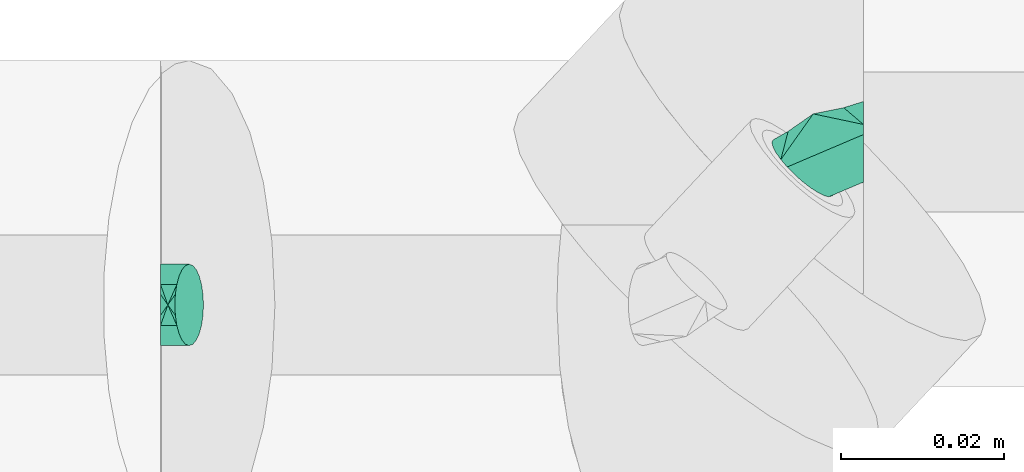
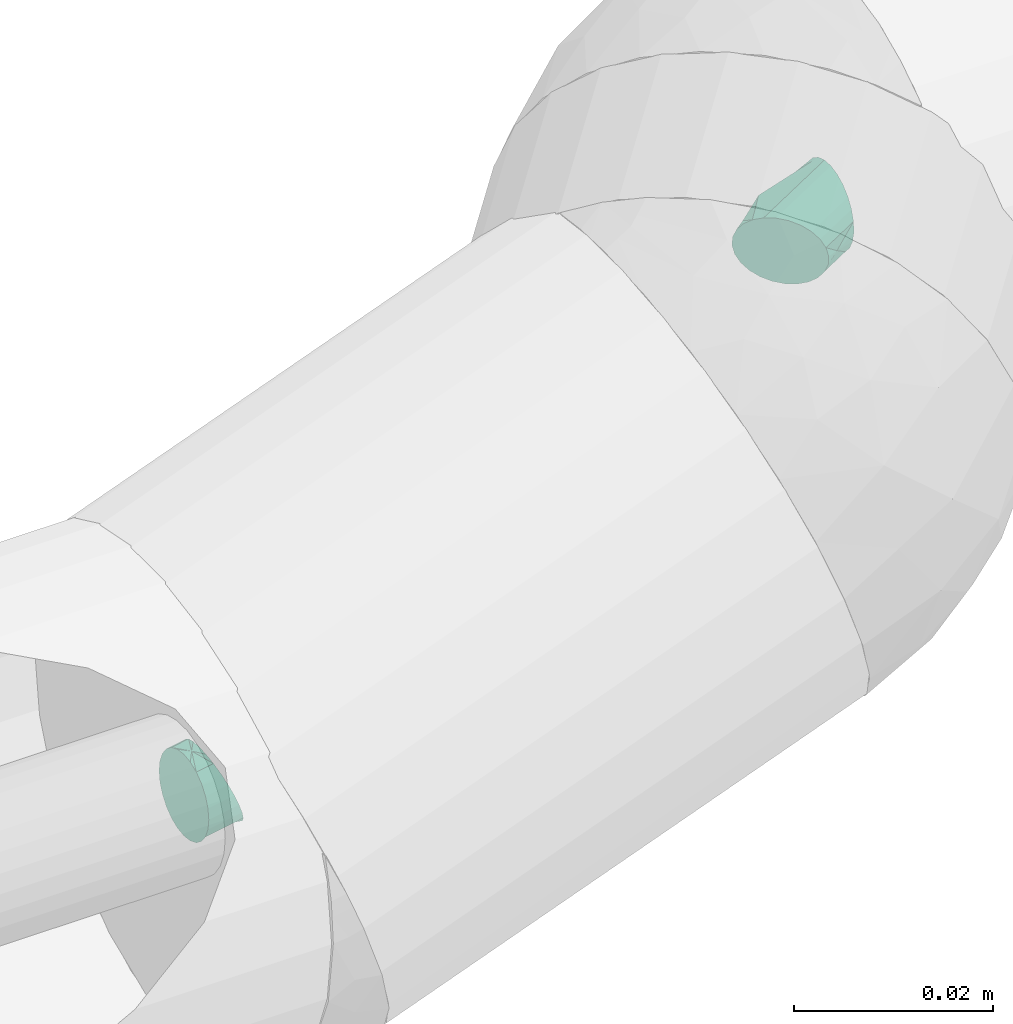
# One storey, part 153 of 156: 2 flow fittings.
"""IFC2X3 building model written with IfcOpenShell, lengths in millimetres."""

from ifc_helpers import new_model, entity, si_unit, converted_unit, derived_unit, direction, frame, origin_with_axes, place, context, subcontext, project, spatial, open_shell, surface_model, source, transform, mapped, type_object, element, save


model = new_model("IFC2X3")

# Units and contexts
model_context = context("Model", 3, precision=0.01, world=frame((0.0, 4.29681676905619e-09, 0.0)), true_north=direction((4.01073788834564e-13, 1.0)))
plan_context = context("Plan", 3, precision=0.01, world=frame((0.0, 4.29681676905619e-09, 0.0)), true_north=direction((4.01073788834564e-13, 1.0)))
body_context = subcontext(model_context, "Body", "Model", "MODEL_VIEW")
ifc_project = project(units=[converted_unit("PLANEANGLEUNIT", "DEGREE", entity("IfcPositiveLengthMeasure", 0.0174532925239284), si_unit("PLANEANGLEUNIT", "RADIAN"), dimensions=[0, 0, 0, 0, 0, 0, 0]), si_unit("AREAUNIT", "SQUARE_METRE"), si_unit("LENGTHUNIT", "METRE", prefix="MILLI"), si_unit("MASSUNIT", "GRAM", prefix="KILO"), si_unit("POWERUNIT", "WATT"), si_unit("PRESSUREUNIT", "PASCAL", prefix="KILO"), si_unit("FORCEUNIT", "NEWTON", prefix="KILO"), si_unit("ELECTRICVOLTAGEUNIT", "VOLT"), si_unit("ELECTRICCURRENTUNIT", "AMPERE"), si_unit("THERMODYNAMICTEMPERATUREUNIT", "DEGREE_CELSIUS"), si_unit("TIMEUNIT", "SECOND"), si_unit("VOLUMEUNIT", "CUBIC_METRE"), derived_unit("LINEARVELOCITYUNIT", [(si_unit("LENGTHUNIT", "METRE"), 1), (si_unit("TIMEUNIT", "SECOND"), -1)]), derived_unit("VOLUMETRICFLOWRATEUNIT", [(si_unit("VOLUMEUNIT", "CUBIC_METRE"), 1), (si_unit("TIMEUNIT", "SECOND"), -1)]), derived_unit("THERMALTRANSMITTANCEUNIT", [(si_unit("POWERUNIT", "WATT"), 1), (si_unit("THERMODYNAMICTEMPERATUREUNIT", "KELVIN"), -1), (si_unit("AREAUNIT", "SQUARE_METRE"), -1)]), derived_unit("SOUNDPRESSUREUNIT", [(si_unit("PRESSUREUNIT", "PASCAL"), 1)])], contexts=[model_context, plan_context])

# Site, building, storey
site_placement = place(None, frame((0.0, -4.29681676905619e-09, 0.0), z_axis=(0.0, 0.0, 1.0), x_axis=(1.0, 0.0, 0.0)))
site = spatial("IfcSite", under=ifc_project, at=site_placement, CompositionType="ELEMENT")
building_placement = place(site_placement, frame((0.0, 4.29681676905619e-09, 0.0), z_axis=(0.0, 0.0, 1.0), x_axis=(1.0, 0.0, 0.0)))
building = spatial("IfcBuilding", under=site, at=building_placement, Name="mc-building", CompositionType="ELEMENT")
storey_placement = place(building_placement, frame((0.0, 0.0, 205200.0), z_axis=(0.0, 0.0, 1.0), x_axis=(1.0, 0.0, 0.0)))
storey = spatial("IfcBuildingStorey", under=building, at=storey_placement, Name="Nivå D + 1,2 m", CompositionType="ELEMENT", Elevation=205200.0)

# Flow fittings
pipe_fitting_type = type_object("IfcPipeFittingType", Name="magi_pipe_elbow_short_001", PredefinedType="BEND")
shared_shape_1 = source(origin_with_axes(), body_context, "Body", "SurfaceModel", [
    surface_model("IfcShellBasedSurfaceModel", [(-4.50897, 0.0, -5.0), (-4.50897, -3.53553, -3.53553), (-4.50897, 1.2941, -4.82963), (-4.50897, 2.5, -4.33013), (-4.50897, 3.53553, -3.53553), (-4.50897, 4.82963, -1.2941), (-4.50897, 4.33013, -2.5), (-4.50897, -5.0, 0.0), (-4.50897, 4.33013, 2.5), (-4.50897, -2.5, -4.33013), (-4.50897, -1.2941, -4.82963), (-4.50897, -4.82963, -1.2941), (-4.50897, -4.33013, -2.5), (-4.50897, 5.0, 0.0), (-4.50897, 4.82963, 1.2941), (-4.50897, 1.2941, 4.82963), (-4.50897, 2.5, 4.33013), (-4.50897, 3.53553, 3.53553), (-4.50897, -3.53553, 3.53553), (-4.50897, -4.82963, 1.2941), (-4.50897, -4.33013, 2.5), (-4.50897, -2.5, 4.33013), (-4.50897, -1.2941, 4.82963), (-4.50897, 0.0, 5.0), (2.01549, 4.23595, -4.82963), (6.23044, 0.51224, -2.5), (2.98532, 3.37915, -5.0), (0.33569, 5.71998, -3.53553), (1.11175, 5.03436, -4.33013), (-0.2598, 6.24606, -2.5), (-0.63414, 6.57678, -1.2941), (-0.2598, 6.24606, 2.5), (6.73247, 0.06873, 0.0), (3.95515, 2.52235, -4.82963), (5.63495, 1.03833, -3.53553), (4.85889, 1.72394, -4.33013), (6.60478, 0.18153, -1.2941), (-0.76182, 6.68958, 0.0), (-0.63414, 6.57678, 1.2941), (2.01549, 4.23595, 4.82963), (1.11175, 5.03436, 4.33013), (0.33569, 5.71998, 3.53553), (5.63495, 1.03833, 3.53553), (6.23044, 0.51224, 2.5), (6.60478, 0.18153, 1.2941), (3.95515, 2.52235, 4.82963), (4.85889, 1.72394, 4.33013), (2.98532, 3.37915, 5.0), (-2.08307, -4.47837, 0.0), (1.6567, -3.67423, 0.0), (-2.45375, 5.44192, 0.0), (4.73539, -1.40395, 0.0)], [open_shell([[[0, 1, 2]], [[3, 2, 4]], [[5, 6, 4]], [[4, 2, 7]], [[4, 7, 8]], [[9, 1, 10]], [[1, 0, 10]], [[11, 7, 12]], [[1, 12, 7]], [[1, 7, 2]], [[13, 5, 4]], [[8, 14, 13]], [[7, 15, 8]], [[8, 15, 16]], [[17, 8, 16]], [[18, 15, 7]], [[19, 20, 7]], [[7, 20, 18]], [[21, 22, 18]], [[22, 15, 18]], [[15, 22, 23]], [[8, 13, 4]], [[24, 25, 26]], [[27, 24, 28]], [[27, 29, 30]], [[25, 24, 27]], [[31, 32, 27]], [[33, 34, 35]], [[34, 33, 25]], [[25, 32, 36]], [[25, 33, 26]], [[27, 32, 25]], [[27, 30, 37]], [[37, 38, 31]], [[39, 32, 31]], [[40, 39, 31]], [[40, 31, 41]], [[32, 39, 42]], [[42, 43, 32]], [[44, 32, 43]], [[42, 45, 46]], [[42, 39, 45]], [[45, 39, 47]], [[27, 37, 31]], [[20, 48, 18]], [[49, 21, 18]], [[21, 45, 22]], [[47, 15, 23]], [[23, 22, 45]], [[19, 48, 20]], [[19, 7, 48]], [[41, 17, 16]], [[31, 8, 17]], [[14, 8, 50]], [[50, 13, 14]], [[50, 8, 31]], [[40, 16, 15]], [[49, 18, 48]], [[46, 45, 21]], [[46, 49, 42]], [[43, 51, 44]], [[45, 47, 23]], [[51, 43, 42]], [[49, 51, 42]], [[44, 51, 32]], [[31, 38, 50]], [[37, 50, 38]], [[15, 39, 40]], [[16, 40, 41]], [[31, 17, 41]], [[47, 39, 15]], [[21, 49, 46]], [[12, 48, 11]], [[24, 0, 2]], [[26, 10, 0]], [[29, 4, 6]], [[27, 3, 4]], [[50, 6, 5]], [[24, 2, 3]], [[48, 7, 11]], [[12, 1, 48]], [[49, 9, 35]], [[49, 48, 1]], [[49, 1, 9]], [[35, 9, 10]], [[5, 13, 50]], [[50, 37, 30]], [[50, 30, 29]], [[28, 3, 27]], [[3, 28, 24]], [[36, 32, 51]], [[29, 27, 4]], [[24, 26, 0]], [[35, 10, 33]], [[34, 49, 35]], [[25, 36, 51]], [[49, 34, 51]], [[51, 34, 25]], [[26, 33, 10]], [[29, 6, 50]]])]),
])
flow_fitting_1_placement = place(storey_placement, frame((332737.5, 459051.28638, 4228.32044000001), z_axis=(0.0, -0.331295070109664, 0.943527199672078), x_axis=(-1.0, 0.0, 0.0)))
element("IfcFlowFitting", 1, at=flow_fitting_1_placement, inside=storey, type_object=pipe_fitting_type, Name="magi_pipe_elbow_short_001", context=body_context, shape_type="MappedRepresentation", body=[
    mapped(shared_shape_1, transform((0.0, 0.0, 0.0), scale=1.0)),
])
shared_shape_2 = source(origin_with_axes(), body_context, "Body", "SurfaceModel", [
    surface_model("IfcShellBasedSurfaceModel", [(-1.81335, 0.0, -5.0), (-1.81335, -3.53553, -3.53553), (-1.81335, 1.2941, -4.82963), (-1.81335, 2.5, -4.33013), (-1.81335, 3.53553, -3.53553), (-1.81335, 4.82963, -1.2941), (-1.81335, 4.33013, -2.5), (-1.81335, -5.0, 0.0), (-1.81335, 4.33013, 2.5), (-1.81335, -2.5, -4.33013), (-1.81335, -1.2941, -4.82963), (-1.81335, -4.82963, -1.2941), (-1.81335, -4.33013, -2.5), (-1.81335, 5.0, 0.0), (-1.81335, 4.82963, 1.2941), (-1.81335, 1.2941, 4.82963), (-1.81335, 2.5, 4.33013), (-1.81335, 3.53553, 3.53553), (-1.81335, -3.53553, 3.53553), (-1.81335, -4.82963, 1.2941), (-1.81335, -4.33013, 2.5), (-1.81335, -2.5, 4.33013), (-1.81335, -1.2941, 4.82963), (-1.81335, 0.0, 5.0), (1.2435, 1.84841, -4.82963), (3.45351, -4.04494, 0.0), (1.69789, 0.63671, -5.0), (0.45648, 3.94713, -3.53553), (0.82008, 2.97753, -4.33013), (0.17748, 4.69113, 2.5), (0.17748, 4.69113, -2.5), (0.00209, 5.15883, 1.2941), (2.15228, -0.57499, -4.82963), (2.9393, -2.67372, -3.53553), (2.5757, -1.70411, -4.33013), (3.2183, -3.41772, -2.5), (3.39368, -3.88541, -1.2941), (0.00209, 5.15883, -1.2941), (2.9393, -2.67372, 3.53553), (0.82008, 2.97753, 4.33013), (1.2435, 1.84841, 4.82963), (0.45648, 3.94713, 3.53553), (1.69789, 0.63671, 5.0), (3.39368, -3.88541, 1.2941), (3.2183, -3.41772, 2.5), (2.5757, -1.70411, 4.33013), (2.15228, -0.57499, 4.82963), (-0.05773, 5.31835, 0.0), (0.86303, -4.7593, 0.0), (-0.67746, -4.89785, 0.0), (-0.92122, 5.08023, 0.0), (2.35407, -4.34812, 0.0)], [open_shell([[[0, 1, 2]], [[3, 2, 4]], [[5, 6, 4]], [[4, 2, 7]], [[4, 7, 8]], [[9, 1, 10]], [[1, 0, 10]], [[11, 7, 12]], [[1, 12, 7]], [[1, 7, 2]], [[13, 5, 4]], [[8, 14, 13]], [[7, 15, 8]], [[8, 15, 16]], [[17, 8, 16]], [[18, 15, 7]], [[19, 20, 7]], [[7, 20, 18]], [[21, 22, 18]], [[22, 15, 18]], [[15, 22, 23]], [[8, 13, 4]], [[24, 25, 26]], [[27, 24, 28]], [[29, 25, 27]], [[25, 24, 27]], [[27, 30, 31]], [[32, 33, 34]], [[33, 32, 35]], [[35, 25, 36]], [[25, 35, 32]], [[32, 26, 25]], [[30, 37, 31]], [[29, 27, 31]], [[38, 25, 29]], [[39, 40, 29]], [[39, 29, 41]], [[42, 29, 40]], [[43, 38, 44]], [[25, 38, 43]], [[45, 42, 46]], [[42, 45, 38]], [[29, 42, 38]], [[31, 37, 47]], [[21, 18, 48]], [[18, 20, 49]], [[46, 22, 21]], [[23, 40, 15]], [[23, 22, 42]], [[19, 49, 20]], [[41, 17, 16]], [[29, 8, 17]], [[14, 8, 50]], [[50, 13, 14]], [[50, 8, 29]], [[40, 16, 15]], [[19, 7, 49]], [[48, 18, 49]], [[45, 46, 21]], [[45, 48, 38]], [[46, 42, 22]], [[51, 44, 38]], [[48, 51, 38]], [[43, 51, 25]], [[29, 31, 50]], [[47, 50, 31]], [[44, 51, 43]], [[40, 23, 42]], [[29, 17, 41]], [[41, 16, 39]], [[40, 39, 16]], [[21, 48, 45]], [[12, 49, 11]], [[24, 0, 2]], [[26, 10, 0]], [[30, 4, 6]], [[4, 27, 3]], [[2, 3, 24]], [[50, 6, 5]], [[49, 7, 11]], [[12, 1, 49]], [[48, 9, 34]], [[48, 49, 1]], [[48, 1, 9]], [[32, 9, 10]], [[5, 13, 50]], [[50, 47, 37]], [[50, 37, 30]], [[28, 3, 27]], [[24, 3, 28]], [[36, 25, 51]], [[4, 30, 27]], [[24, 26, 0]], [[33, 48, 34]], [[9, 32, 34]], [[35, 36, 51]], [[48, 33, 51]], [[51, 33, 35]], [[10, 26, 32]], [[30, 6, 50]]])]),
])
flow_fitting_2_placement = place(storey_placement, frame((332657.5, 459031.28638, 4198.32044000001), z_axis=(0.0, -1.0, 0.0), x_axis=(1.0, 0.0, 0.0)))
element("IfcFlowFitting", 2, at=flow_fitting_2_placement, inside=storey, type_object=pipe_fitting_type, Name="magi_pipe_elbow_short_001", context=body_context, shape_type="MappedRepresentation", body=[
    mapped(shared_shape_2, transform((0.0, 0.0, 0.0), scale=1.0)),
])

save(model, "model.ifc")
